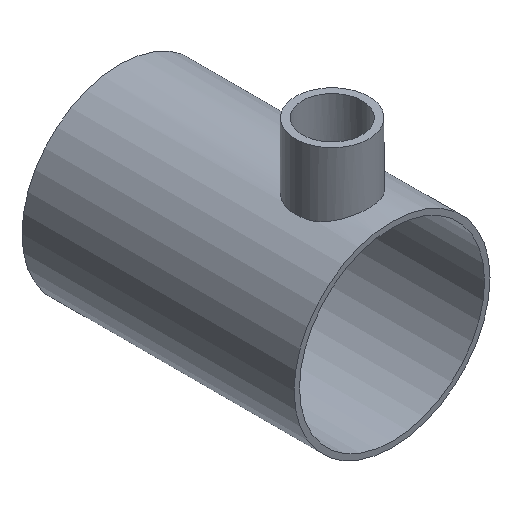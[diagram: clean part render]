
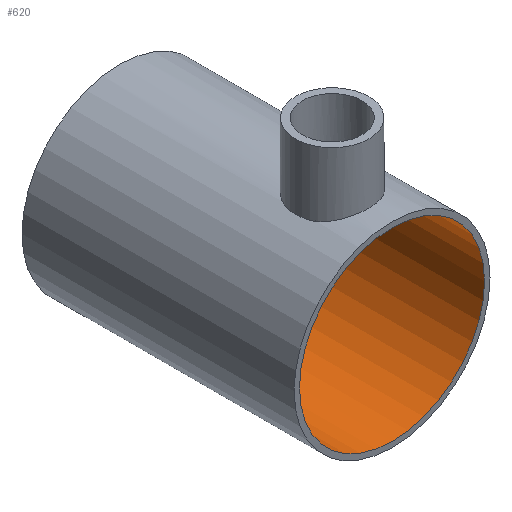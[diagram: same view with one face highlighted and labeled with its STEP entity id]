
A CAD part, isometric view. The second image highlights one B-rep face of the part: STEP entity #620.
In plain terms, the highlighted cylindrical face has radius 17 mm (diameter 34 mm), a full revolution.
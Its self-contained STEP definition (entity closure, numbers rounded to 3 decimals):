
#43 = PLANE('',#44);
#44 = AXIS2_PLACEMENT_3D('',#45,#46,#47);
#45 = CARTESIAN_POINT('',(0.,-4.,75.));
#46 = DIRECTION('',(-0.,-1.,-0.));
#47 = DIRECTION('',(0.,0.,-1.));
#93 = PLANE('',#94);
#94 = AXIS2_PLACEMENT_3D('',#95,#96,#97);
#95 = CARTESIAN_POINT('',(0.,46.,75.));
#96 = DIRECTION('',(-0.,-1.,-0.));
#97 = DIRECTION('',(0.,0.,-1.));
#427 = EDGE_CURVE('',#428,#428,#430,.T.);
#428 = VERTEX_POINT('',#429);
#429 = CARTESIAN_POINT('',(17.,-4.,75.));
#430 = SURFACE_CURVE('',#431,(#436,#443),.PCURVE_S1.);
#431 = CIRCLE('',#432,17.);
#432 = AXIS2_PLACEMENT_3D('',#433,#434,#435);
#433 = CARTESIAN_POINT('',(0.,-4.,75.));
#434 = DIRECTION('',(0.,-1.,0.));
#435 = DIRECTION('',(1.,0.,0.));
#436 = PCURVE('',#43,#437);
#437 = DEFINITIONAL_REPRESENTATION('',(#438),#442);
#438 = CIRCLE('',#439,17.);
#439 = AXIS2_PLACEMENT_2D('',#440,#441);
#440 = CARTESIAN_POINT('',(0.,0.));
#441 = DIRECTION('',(0.,1.));
#442 = ( GEOMETRIC_REPRESENTATION_CONTEXT(2) 
PARAMETRIC_REPRESENTATION_CONTEXT() REPRESENTATION_CONTEXT('2D SPACE',''
  ) );
#443 = PCURVE('',#444,#449);
#444 = CYLINDRICAL_SURFACE('',#445,17.);
#445 = AXIS2_PLACEMENT_3D('',#446,#447,#448);
#446 = CARTESIAN_POINT('',(0.,-4.,75.));
#447 = DIRECTION('',(0.,-1.,0.));
#448 = DIRECTION('',(1.,0.,0.));
#449 = DEFINITIONAL_REPRESENTATION('',(#450),#454);
#450 = LINE('',#451,#452);
#451 = CARTESIAN_POINT('',(0.,0.));
#452 = VECTOR('',#453,1.);
#453 = DIRECTION('',(1.,0.));
#454 = ( GEOMETRIC_REPRESENTATION_CONTEXT(2) 
PARAMETRIC_REPRESENTATION_CONTEXT() REPRESENTATION_CONTEXT('2D SPACE',''
  ) );
#462 = EDGE_CURVE('',#463,#463,#465,.T.);
#463 = VERTEX_POINT('',#464);
#464 = CARTESIAN_POINT('',(17.,46.,75.));
#465 = SURFACE_CURVE('',#466,(#471,#478),.PCURVE_S1.);
#466 = CIRCLE('',#467,17.);
#467 = AXIS2_PLACEMENT_3D('',#468,#469,#470);
#468 = CARTESIAN_POINT('',(0.,46.,75.));
#469 = DIRECTION('',(0.,-1.,0.));
#470 = DIRECTION('',(1.,0.,0.));
#471 = PCURVE('',#93,#472);
#472 = DEFINITIONAL_REPRESENTATION('',(#473),#477);
#473 = CIRCLE('',#474,17.);
#474 = AXIS2_PLACEMENT_2D('',#475,#476);
#475 = CARTESIAN_POINT('',(0.,0.));
#476 = DIRECTION('',(0.,1.));
#477 = ( GEOMETRIC_REPRESENTATION_CONTEXT(2) 
PARAMETRIC_REPRESENTATION_CONTEXT() REPRESENTATION_CONTEXT('2D SPACE',''
  ) );
#478 = PCURVE('',#444,#479);
#479 = DEFINITIONAL_REPRESENTATION('',(#480),#484);
#480 = LINE('',#481,#482);
#481 = CARTESIAN_POINT('',(0.,-50.));
#482 = VECTOR('',#483,1.);
#483 = DIRECTION('',(1.,0.));
#484 = ( GEOMETRIC_REPRESENTATION_CONTEXT(2) 
PARAMETRIC_REPRESENTATION_CONTEXT() REPRESENTATION_CONTEXT('2D SPACE',''
  ) );
#620 = ADVANCED_FACE('',(#621),#444,.F.);
#621 = FACE_BOUND('',#622,.F.);
#622 = EDGE_LOOP('',(#623,#624,#645,#646));
#623 = ORIENTED_EDGE('',*,*,#427,.F.);
#624 = ORIENTED_EDGE('',*,*,#625,.T.);
#625 = EDGE_CURVE('',#428,#463,#626,.T.);
#626 = SEAM_CURVE('',#627,(#631,#638),.PCURVE_S1.);
#627 = LINE('',#628,#629);
#628 = CARTESIAN_POINT('',(17.,-4.,75.));
#629 = VECTOR('',#630,1.);
#630 = DIRECTION('',(-0.,1.,-0.));
#631 = PCURVE('',#444,#632);
#632 = DEFINITIONAL_REPRESENTATION('',(#633),#637);
#633 = LINE('',#634,#635);
#634 = CARTESIAN_POINT('',(6.283,0.));
#635 = VECTOR('',#636,1.);
#636 = DIRECTION('',(0.,-1.));
#637 = ( GEOMETRIC_REPRESENTATION_CONTEXT(2) 
PARAMETRIC_REPRESENTATION_CONTEXT() REPRESENTATION_CONTEXT('2D SPACE',''
  ) );
#638 = PCURVE('',#444,#639);
#639 = DEFINITIONAL_REPRESENTATION('',(#640),#644);
#640 = LINE('',#641,#642);
#641 = CARTESIAN_POINT('',(0.,0.));
#642 = VECTOR('',#643,1.);
#643 = DIRECTION('',(0.,-1.));
#644 = ( GEOMETRIC_REPRESENTATION_CONTEXT(2) 
PARAMETRIC_REPRESENTATION_CONTEXT() REPRESENTATION_CONTEXT('2D SPACE',''
  ) );
#645 = ORIENTED_EDGE('',*,*,#462,.T.);
#646 = ORIENTED_EDGE('',*,*,#625,.F.);
